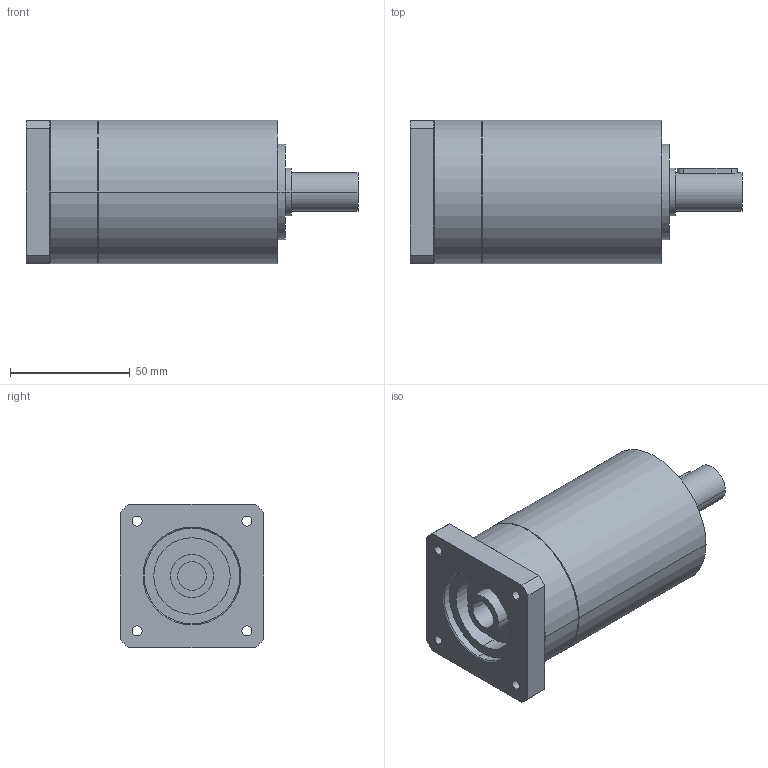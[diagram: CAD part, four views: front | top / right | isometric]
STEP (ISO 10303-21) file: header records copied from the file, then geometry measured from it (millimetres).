
FILE_DESCRIPTION(('CoCreate Modeling STEP Export'),'2;1');
FILE_NAME('GPR75_ig-9-12-16-20-24-30-36_16_B14_12_P32.stp','2014-08-25T16:32:56',(''),(''),'CoCreate Modeling STEP processor for AP214 (Solid Model)','CoCreate Modeling 16.00C 25-Feb-2009 (C) Parametric Technology GmbH','');
FILE_SCHEMA(('AUTOMOTIVE_DESIGN { 1 0 10303 214 1 1 1 1 }'));
Length unit declared in the file: millimetre
Products named in the file (2): GPR75_ig-9-12-16-20-24-30-36_16_B14_12_P32
Assembly tree (1 placements, depth 2):
  GPR75_ig-9-12-16-20-24-30-36_16_B14_12_P32
    GPR75_ig-9-12-16-20-24-30-36_16_B14_12_P32
Bounding box: 138.9 x 60 x 60 mm (x, y, z)
Volume: 303182.9 mm3; surface area: 33397.8 mm2
Topology: 1 solids, 1 shells, 72 faces, 191 edges, 133 vertices
Faces by surface type: cylinder 42, plane 22, cone 8
Entity records: 1974 total; most frequent: ORIENTED_EDGE 378, CARTESIAN_POINT 365, DIRECTION 268, EDGE_CURVE 189, VERTEX_POINT 133, AXIS2_PLACEMENT_3D 100, EDGE_LOOP 94, FACE_OUTER_BOUND 72
